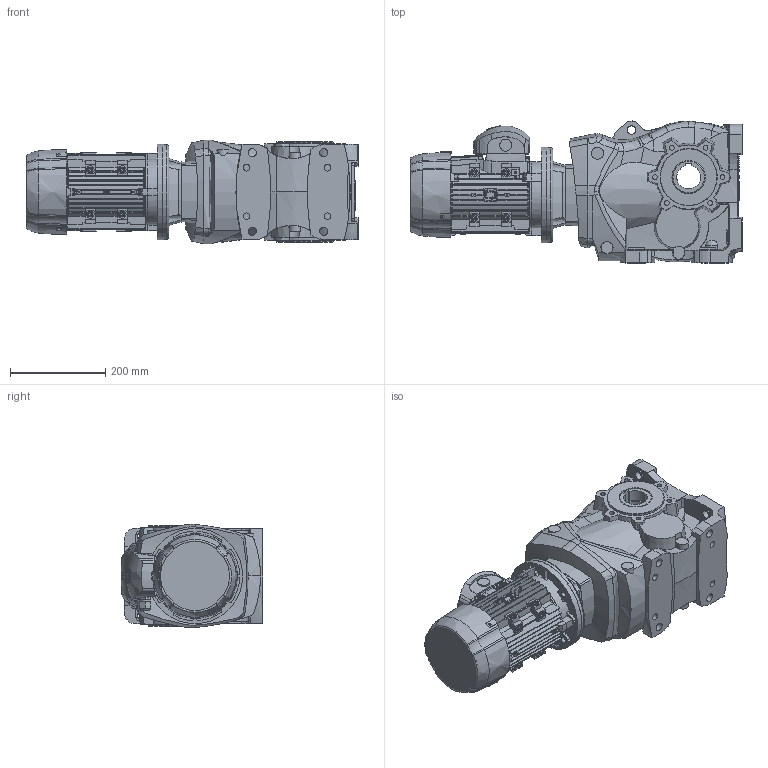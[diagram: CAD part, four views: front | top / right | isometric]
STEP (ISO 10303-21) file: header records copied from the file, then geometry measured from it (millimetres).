
FILE_DESCRIPTION((''),'2;1');
FILE_NAME('C:\xampp\htdocs\motive\source_step\enduro7.stp','2021-12-01T15:27:21',('apache'),(''),'Autodesk Inventor 2013','Autodesk Inventor 2013','');
FILE_SCHEMA(('CONFIG_CONTROL_DESIGN'));
Length unit declared in the file: millimetre
Products named in the file (12): enduro7; HOUEN7; ICVEN7; IFL90EN7; OSHEN7; TCVEN7; M90L; BODY90L; B590; SH90L; TBOX90_100; FCV90
Assembly tree (11 placements, depth 3):
  enduro7
    HOUEN7
    ICVEN7
    IFL90EN7
    OSHEN7
    TCVEN7
    M90L
      BODY90L
      B590
      SH90L
      TBOX90_100
      FCV90
Bounding box: 697.12 x 298 x 217.43 mm (x, y, z)
Volume: 20537436.8 mm3; surface area: 1502348.4 mm2
Topology: 10 solids, 10 shells, 2871 faces, 7912 edges, 5231 vertices
Faces by surface type: plane 1098, bspline 673, cylinder 597, cone 285, torus 216, sphere 2
Full cylindrical faces by diameter (mm): 2.5 x4, 4.2 x13, 5 x9, 5.4 x2, 6 x3, 6.8 x12, 7 x4, 8.5 x4, 10.2 x12, 11 x12, 12 x4, 14 x4, 17.5 x8, 20 x4, 23 x1, 24 x2, 25 x3, 40 x1, 42 x1, 45 x1, 50 x1, 52 x2, 55 x1, 64 x1, 70 x2, 110 x2, 120 x2, 124 x1, 125 x1, 130 x1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
Entity records: 146234 total; most frequent: CARTESIAN_POINT 77042, ORIENTED_EDGE 15372, DIRECTION 12539, EDGE_CURVE 7686, VERTEX_POINT 5179, AXIS2_PLACEMENT_3D 4747, EDGE_LOOP 3279, VECTOR 3045
